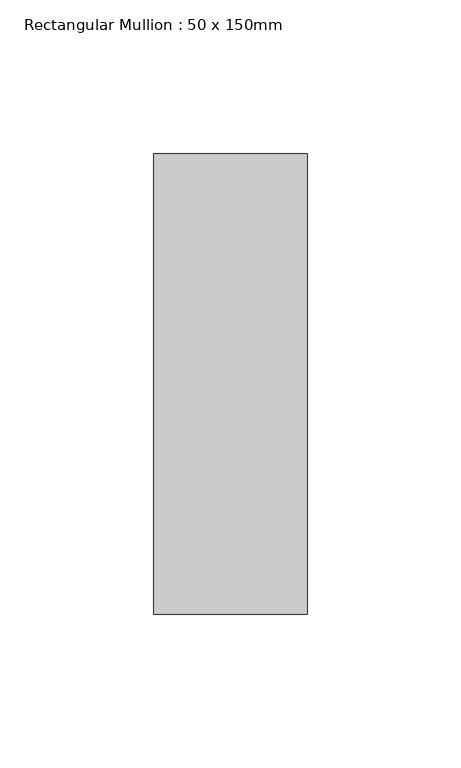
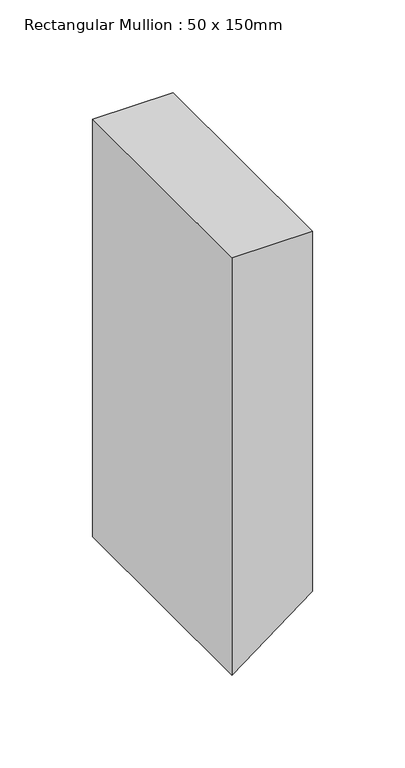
"""IFC4 building model written with IfcOpenShell, lengths in millimetres: member geometry, Rectangular Mullion : 50 x 150mm."""

from ifc_helpers import new_model, si_unit, frame, origin, place, context, project, spatial, polyline, outline, extrude, source, transform, mapped, element, save


def rectangular_mullion_50_x_150mm_7c86a15d(model_context):
    return source(origin(), model_context, "Body", "SweptSolid", [
        extrude(outline(polyline([(0.0, 25.0), (0.0, -25.0), (-274.3350847, -25.0), (-236.5260906, 25.0), (0.0, 25.0)])), frame((0.0, -75.0, 0.0), z_axis=(0.0, 1.0, 0.0), x_axis=(0.0, 0.0, 1.0)), (0.0, 0.0, 1.0), 150.0),
    ])


if __name__ == "__main__":
    model = new_model("IFC4")
    model_context = context("Model", 3, world=origin())
    ifc_project = project(units=[si_unit("LENGTHUNIT", "METRE", prefix="MILLI")], contexts=[model_context])
    site = spatial("IfcSite", under=ifc_project)
    building = spatial("IfcBuilding", under=site)
    placement = place(None, origin())
    rectangular_mullion_50_x_150mm_shape = rectangular_mullion_50_x_150mm_7c86a15d(model_context)
    element("IfcMember", 1, ObjectType="Rectangular Mullion : 50 x 150mm", at=placement, inside=building, context=model_context, shape_type="MappedRepresentation", body=[
        mapped(rectangular_mullion_50_x_150mm_shape, transform((0.0, 0.0, 0.0), x_axis=(1.0, 0.0, 0.0), y_axis=(0.0, 1.0, 0.0), z_axis=(0.0, 0.0, 1.0))),
    ])
    save(model, "model.ifc")
